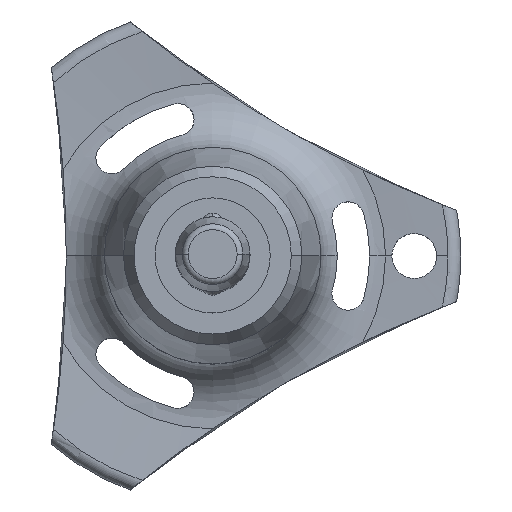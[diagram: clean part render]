
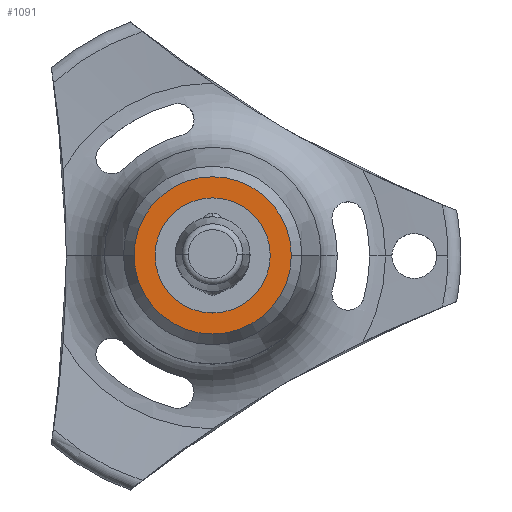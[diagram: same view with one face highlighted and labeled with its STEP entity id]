
A CAD part, top view. The second image highlights one B-rep face of the part: STEP entity #1091.
In plain terms, the highlighted planar face has unit normal (0, 0, 1).
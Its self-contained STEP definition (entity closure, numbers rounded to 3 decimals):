
#72 = VERTEX_POINT ( 'NONE', #1034 ) ;
#112 = ORIENTED_EDGE ( 'NONE', *, *, #1084, .F. ) ;
#149 = ORIENTED_EDGE ( 'NONE', *, *, #409, .F. ) ;
#211 = DIRECTION ( 'NONE',  ( -1., 0., 0. ) ) ;
#378 = DIRECTION ( 'NONE',  ( 0., 0., -1. ) ) ;
#409 = EDGE_CURVE ( 'NONE', #2570, #831, #1553, .T. ) ;
#430 = CIRCLE ( 'NONE', #2158, 5.262 ) ;
#545 = ORIENTED_EDGE ( 'NONE', *, *, #2369, .T. ) ;
#567 = DIRECTION ( 'NONE',  ( 1., 0., 0. ) ) ;
#583 = AXIS2_PLACEMENT_3D ( 'NONE', #1454, #605, #1219 ) ;
#587 = ORIENTED_EDGE ( 'NONE', *, *, #1017, .T. ) ;
#605 = DIRECTION ( 'NONE',  ( 0., 0., -1. ) ) ;
#683 = CARTESIAN_POINT ( 'NONE',  ( -5.262, 0., -45.4 ) ) ;
#831 = VERTEX_POINT ( 'NONE', #2106 ) ;
#947 = DIRECTION ( 'NONE',  ( -1., 0., 0. ) ) ;
#1017 = EDGE_CURVE ( 'NONE', #72, #1495, #2117, .T. ) ;
#1034 = CARTESIAN_POINT ( 'NONE',  ( 3.852, 0., -45.4 ) ) ;
#1084 = EDGE_CURVE ( 'NONE', #831, #2570, #430, .T. ) ;
#1091 = ADVANCED_FACE ( 'NONE', ( #1211, #1459 ), #2664, .T. ) ;
#1198 = CIRCLE ( 'NONE', #583, 3.852 ) ;
#1211 = FACE_BOUND ( 'NONE', #1274, .T. ) ;
#1219 = DIRECTION ( 'NONE',  ( -1., 0., 0. ) ) ;
#1274 = EDGE_LOOP ( 'NONE', ( #545, #587 ) ) ;
#1454 = CARTESIAN_POINT ( 'NONE',  ( 0., 0., -45.4 ) ) ;
#1459 = FACE_OUTER_BOUND ( 'NONE', #2091, .T. ) ;
#1495 = VERTEX_POINT ( 'NONE', #1614 ) ;
#1553 = CIRCLE ( 'NONE', #2546, 5.262 ) ;
#1614 = CARTESIAN_POINT ( 'NONE',  ( -3.852, 0., -45.4 ) ) ;
#1809 = CARTESIAN_POINT ( 'NONE',  ( 0., 0., -45.4 ) ) ;
#1862 = DIRECTION ( 'NONE',  ( 0., 0., 1. ) ) ;
#1877 = CARTESIAN_POINT ( 'NONE',  ( 0., 3.852, -45.4 ) ) ;
#1907 = AXIS2_PLACEMENT_3D ( 'NONE', #1877, #1862, #567 ) ;
#1928 = DIRECTION ( 'NONE',  ( -1., 0., 0. ) ) ;
#2011 = DIRECTION ( 'NONE',  ( 0., 0., -1. ) ) ;
#2091 = EDGE_LOOP ( 'NONE', ( #149, #112 ) ) ;
#2106 = CARTESIAN_POINT ( 'NONE',  ( 5.262, 0., -45.4 ) ) ;
#2117 = CIRCLE ( 'NONE', #2245, 3.852 ) ;
#2118 = DIRECTION ( 'NONE',  ( 0., 0., -1. ) ) ;
#2158 = AXIS2_PLACEMENT_3D ( 'NONE', #1809, #378, #211 ) ;
#2245 = AXIS2_PLACEMENT_3D ( 'NONE', #2577, #2011, #947 ) ;
#2344 = CARTESIAN_POINT ( 'NONE',  ( 0., 0., -45.4 ) ) ;
#2369 = EDGE_CURVE ( 'NONE', #1495, #72, #1198, .T. ) ;
#2546 = AXIS2_PLACEMENT_3D ( 'NONE', #2344, #2118, #1928 ) ;
#2570 = VERTEX_POINT ( 'NONE', #683 ) ;
#2577 = CARTESIAN_POINT ( 'NONE',  ( 0., 0., -45.4 ) ) ;
#2664 = PLANE ( 'NONE',  #1907 ) ;
